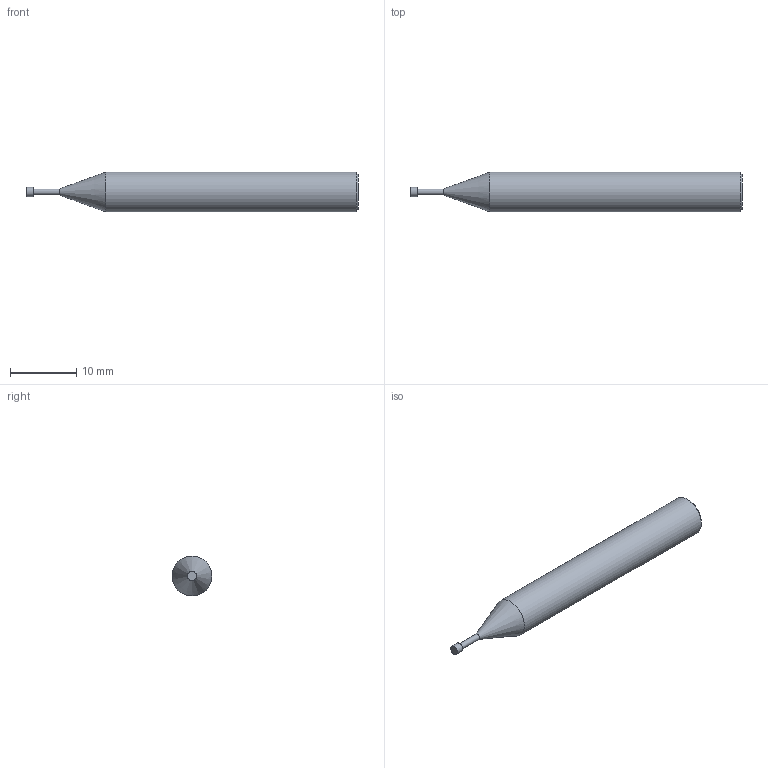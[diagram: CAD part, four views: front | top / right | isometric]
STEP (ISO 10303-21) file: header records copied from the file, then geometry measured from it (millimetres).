
FILE_DESCRIPTION(/* description */ (''),/* implementation_level */ '2;1');
FILE_NAME(/* name */ 'HSXDT-0.4-5 0650.stp',/* time_stamp */ '2026-02-24T08:37:28+08:00',/* author */ (''),/* organization */ (''),/* preprocessor_version */ 'ST-DEVELOPER v16',/* originating_system */ 'SIEMENS PLM Software NX 10.0',/* authorisation */ '');
FILE_SCHEMA (('CONFIG_CONTROL_DESIGN'));
Length unit declared in the file: millimetre
Products named in the file (1): HSXDT-0.4-5 0650_dxf
Bounding box: 50 x 6 x 6 mm (x, y, z)
Volume: 1155.1 mm3; surface area: 840.3 mm2
Topology: 1 solids, 1 shells, 8 faces, 12 edges, 7 vertices
Faces by surface type: plane 3, cylinder 3, cone 2
Full cylindrical faces by diameter (mm): 0.9 x1, 1.4 x1, 6 x1
Entity records: 238 total; most frequent: DIRECTION 32, CARTESIAN_POINT 23, AXIS2_PLACEMENT_3D 16, EDGE_LOOP 14, ORIENTED_EDGE 14, FACE_BOUND 12, ADVANCED_FACE 8, PERSON_AND_ORGANIZATION 7
